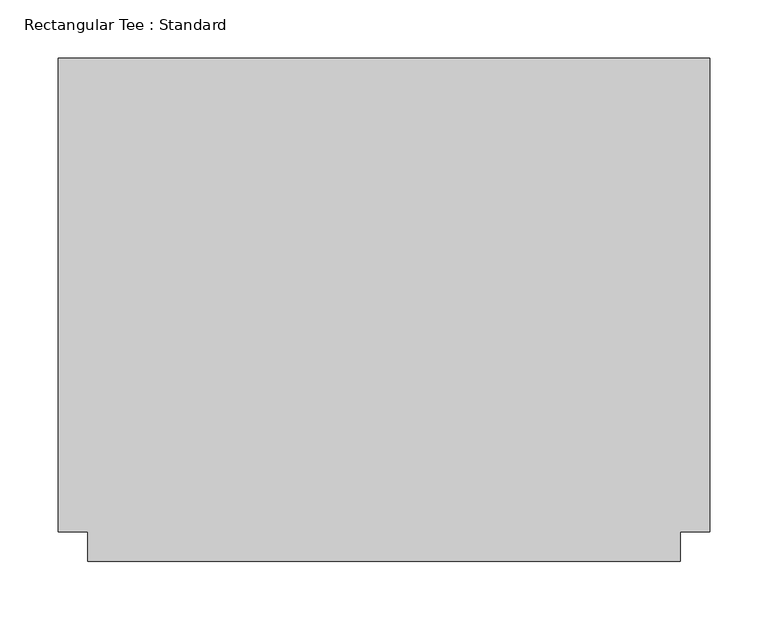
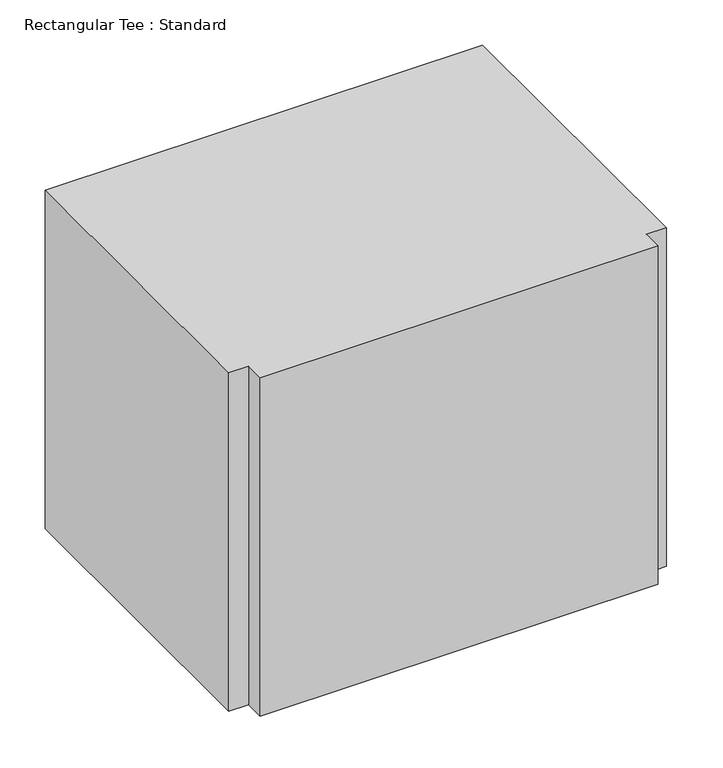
"""IFC4 building model written with IfcOpenShell, lengths in millimetres: duct fitting geometry, Rectangular Tee : Standard."""

from ifc_helpers import new_model, si_unit, frame, origin, place, context, project, spatial, polyline, outline, extrude, source, transform, mapped, element, save


def rectangular_tee_standard_6ecaa18e(model_context):
    return source(origin(), model_context, "Body", "SweptSolid", [
        extrude(outline(polyline([(-279.4, -203.2), (-279.4, 203.2), (279.4, 203.2), (279.4, -203.2), (254.0, -203.2), (254.0, -228.6), (-254.0, -228.6), (-254.0, -203.2), (-279.4, -203.2)])), frame((0.0, 0.0, -228.6), z_axis=(0.0, 0.0, 1.0), x_axis=(1.0, 0.0, 0.0)), (0.0, 0.0, 1.0), 457.2),
    ])


if __name__ == "__main__":
    model = new_model("IFC4")
    model_context = context("Model", 3, world=origin())
    ifc_project = project(units=[si_unit("LENGTHUNIT", "METRE", prefix="MILLI")], contexts=[model_context])
    site = spatial("IfcSite", under=ifc_project)
    building = spatial("IfcBuilding", under=site)
    placement = place(None, origin())
    rectangular_tee_standard_shape = rectangular_tee_standard_6ecaa18e(model_context)
    element("IfcDuctFitting", 1, ObjectType="Rectangular Tee : Standard", at=placement, inside=building, context=model_context, shape_type="MappedRepresentation", body=[
        mapped(rectangular_tee_standard_shape, transform((0.0, 0.0, 0.0), x_axis=(1.0, 0.0, 0.0), y_axis=(0.0, 1.0, 0.0), z_axis=(0.0, 0.0, 1.0))),
    ])
    save(model, "model.ifc")
